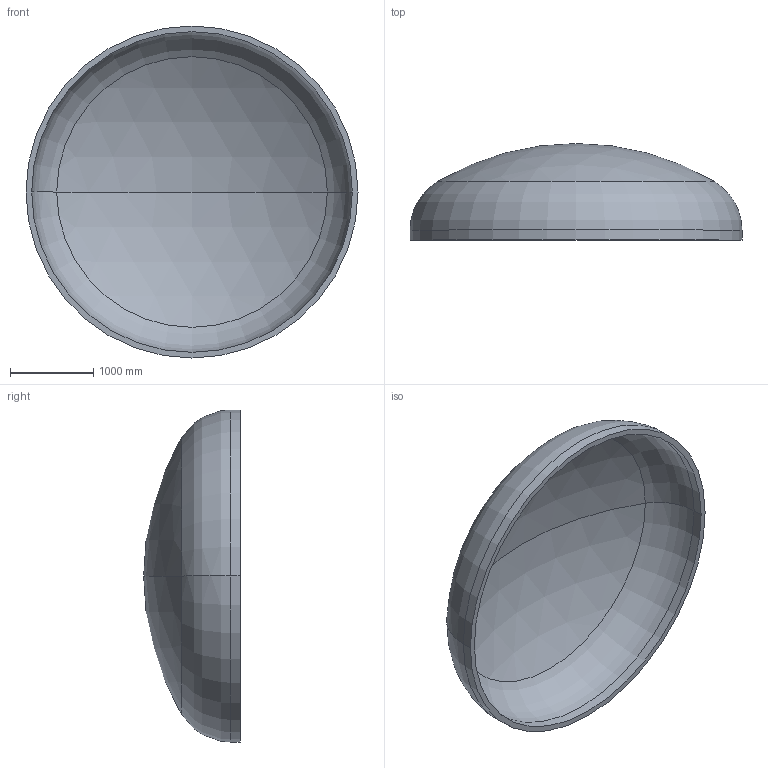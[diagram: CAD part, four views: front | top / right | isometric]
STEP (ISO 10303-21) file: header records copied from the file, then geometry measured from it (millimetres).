
FILE_DESCRIPTION (( 'STEP AP203' ), '1' );
FILE_NAME ('DIN 28013 Korbbogenform_-_Boden DIN 28013 - 4000 x 120 - I - s=68.step', '2016-07-01T22:36:35', ( '' ), ( '' ), 'SwSTEP 2.0', 'SolidWorks 2013', '' );
FILE_SCHEMA (( 'CONFIG_CONTROL_DESIGN' ));
Length unit declared in the file: millimetre
Products named in the file (1): DIN 28013 Korbbogenform_-_Boden DIN 28013 - 4000 x 120 - I - s=68
Bounding box: 4000 x 1163.65 x 4000 mm (x, y, z)
Volume: 1257671016.9 mm3; surface area: 37839981.8 mm2
Topology: 1 solids, 1 shells, 13 faces, 24 edges, 14 vertices
Faces by surface type: torus 4, cylinder 4, sphere 4, plane 1
Entity records: 407 total; most frequent: DIRECTION 72, CARTESIAN_POINT 52, ORIENTED_EDGE 48, AXIS2_PLACEMENT_3D 34, EDGE_CURVE 24, CIRCLE 20, EDGE_LOOP 14, VERTEX_POINT 14
